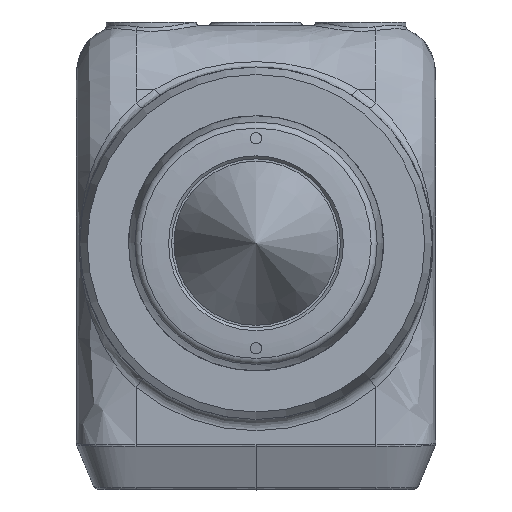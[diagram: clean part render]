
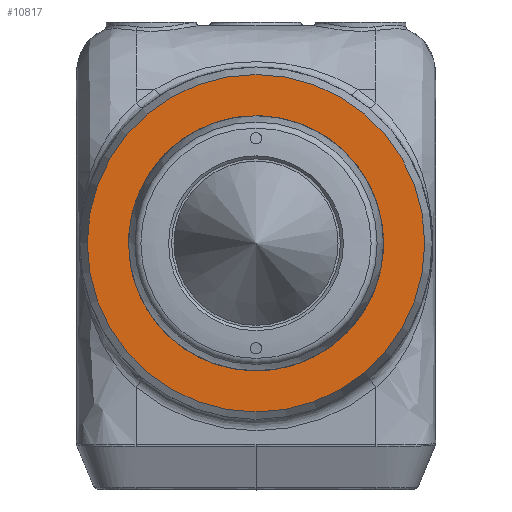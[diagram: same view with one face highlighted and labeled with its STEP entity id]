
A CAD part, front view. The second image highlights one B-rep face of the part: STEP entity #10817.
In plain terms, the highlighted planar face has unit normal (0, -1, 0).
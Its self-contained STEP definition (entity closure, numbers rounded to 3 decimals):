
#10817 = ADVANCED_FACE ( 'NONE', ( #30676, #91066 ), #102575, .F. ) ;
#23440 = VERTEX_POINT ( 'NONE', #130459 ) ;
#24943 = AXIS2_PLACEMENT_3D ( 'NONE', #111777, #53617, #123983 ) ;
#30676 = FACE_BOUND ( 'NONE', #109030, .T. ) ;
#38301 = EDGE_LOOP ( 'NONE', ( #84184 ) ) ;
#53617 = DIRECTION ( 'NONE',  ( 0., 1., 0. ) ) ;
#54977 = DIRECTION ( 'NONE',  ( 0., 0., -1. ) ) ;
#56007 = CIRCLE ( 'NONE', #126885, 22.5 ) ;
#57656 = CARTESIAN_POINT ( 'NONE',  ( 0., 61.5, -22.5 ) ) ;
#84184 = ORIENTED_EDGE ( 'NONE', *, *, #147917, .T. ) ;
#87027 = DIRECTION ( 'NONE',  ( 0., 0., -1. ) ) ;
#91066 = FACE_OUTER_BOUND ( 'NONE', #38301, .T. ) ;
#92392 = ORIENTED_EDGE ( 'NONE', *, *, #92853, .F. ) ;
#92853 = EDGE_CURVE ( 'NONE', #23440, #23440, #146477, .T. ) ;
#102575 = PLANE ( 'NONE',  #24943 ) ;
#103581 = VERTEX_POINT ( 'NONE', #57656 ) ;
#104989 = AXIS2_PLACEMENT_3D ( 'NONE', #135307, #113122, #54977 ) ;
#109030 = EDGE_LOOP ( 'NONE', ( #92392 ) ) ;
#111499 = DIRECTION ( 'NONE',  ( 0., -1., 0. ) ) ;
#111777 = CARTESIAN_POINT ( 'NONE',  ( 0., 61.5, 17. ) ) ;
#113122 = DIRECTION ( 'NONE',  ( 0., -1., 0. ) ) ;
#120691 = CARTESIAN_POINT ( 'NONE',  ( 0., 61.5, 0. ) ) ;
#123983 = DIRECTION ( 'NONE',  ( 0., 0., 1. ) ) ;
#126885 = AXIS2_PLACEMENT_3D ( 'NONE', #120691, #111499, #87027 ) ;
#130459 = CARTESIAN_POINT ( 'NONE',  ( 0., 61.5, -17. ) ) ;
#135307 = CARTESIAN_POINT ( 'NONE',  ( 0., 61.5, 0. ) ) ;
#146477 = CIRCLE ( 'NONE', #104989, 17. ) ;
#147917 = EDGE_CURVE ( 'NONE', #103581, #103581, #56007, .T. ) ;
